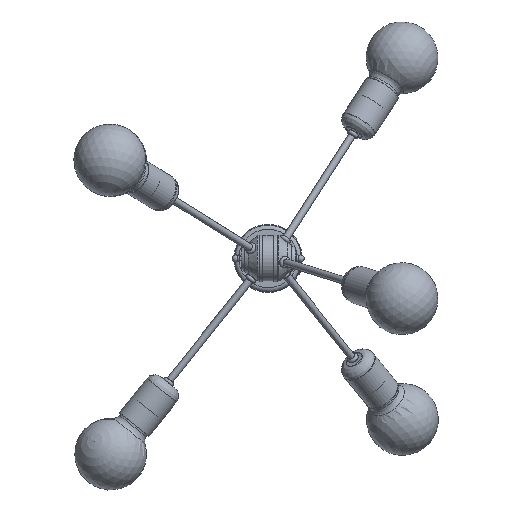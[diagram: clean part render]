
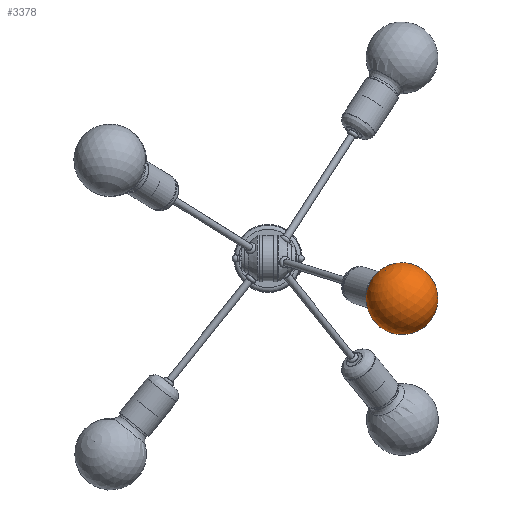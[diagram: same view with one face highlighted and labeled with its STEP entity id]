
A CAD part, front view. The second image highlights one B-rep face of the part: STEP entity #3378.
In plain terms, the highlighted spherical face has radius 40 mm.
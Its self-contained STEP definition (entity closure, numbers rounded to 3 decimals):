
#1773=SPHERICAL_SURFACE('',#3894,40.);
#1867=FACE_BOUND('',#2116,.T.);
#1995=FACE_OUTER_BOUND('',#2115,.T.);
#2115=EDGE_LOOP('',(#3088,#3089));
#2116=EDGE_LOOP('',(#3090,#3091));
#2398=CIRCLE('',#3889,22.493);
#2399=CIRCLE('',#3890,22.493);
#2402=CIRCLE('',#3895,40.);
#2546=VERTEX_POINT('',#6352);
#2547=VERTEX_POINT('',#6354);
#2549=VERTEX_POINT('',#6363);
#2550=VERTEX_POINT('',#6364);
#2735=EDGE_CURVE('',#2546,#2547,#2398,.T.);
#2736=EDGE_CURVE('',#2547,#2546,#2399,.T.);
#2740=EDGE_CURVE('',#2549,#2550,#2402,.T.);
#3088=ORIENTED_EDGE('',*,*,#2740,.T.);
#3089=ORIENTED_EDGE('',*,*,#2740,.F.);
#3090=ORIENTED_EDGE('',*,*,#2736,.F.);
#3091=ORIENTED_EDGE('',*,*,#2735,.F.);
#3378=ADVANCED_FACE('',(#1995,#1867),#1773,.T.);
#3889=AXIS2_PLACEMENT_3D('',#6355,#4782,#4783);
#3890=AXIS2_PLACEMENT_3D('',#6356,#4784,#4785);
#3894=AXIS2_PLACEMENT_3D('',#6362,#4793,#4794);
#3895=AXIS2_PLACEMENT_3D('',#6365,#4795,#4796);
#4782=DIRECTION('center_axis',(0.,1.,0.));
#4783=DIRECTION('ref_axis',(-1.,0.,0.));
#4784=DIRECTION('center_axis',(0.,1.,0.));
#4785=DIRECTION('ref_axis',(-1.,0.,0.));
#4793=DIRECTION('center_axis',(0.,0.,1.));
#4794=DIRECTION('ref_axis',(1.,0.,0.));
#4795=DIRECTION('center_axis',(0.,-1.,0.));
#4796=DIRECTION('ref_axis',(-1.,0.,0.));
#6352=CARTESIAN_POINT('',(0.,33.077,22.493));
#6354=CARTESIAN_POINT('',(22.493,33.077,0.));
#6355=CARTESIAN_POINT('Origin',(0.,33.077,0.));
#6356=CARTESIAN_POINT('Origin',(0.,33.077,0.));
#6362=CARTESIAN_POINT('Origin',(0.,0.,0.));
#6363=CARTESIAN_POINT('',(0.,0.,40.));
#6364=CARTESIAN_POINT('',(0.,0.,-40.));
#6365=CARTESIAN_POINT('Origin',(0.,0.,0.));
